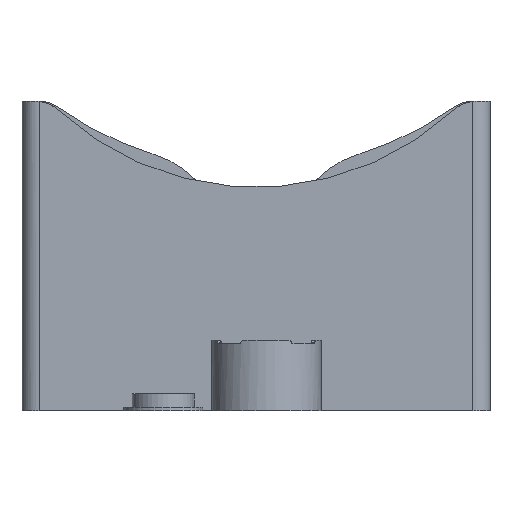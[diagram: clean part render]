
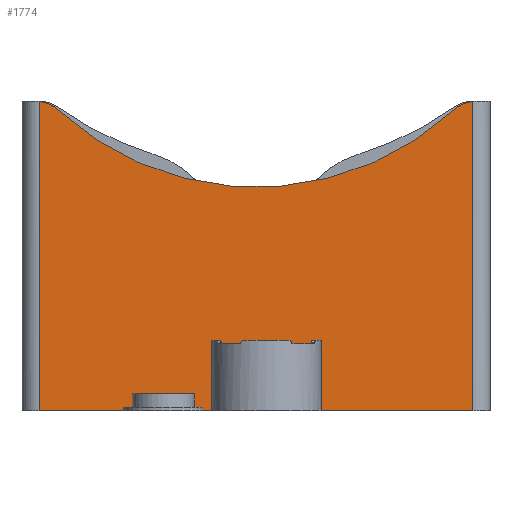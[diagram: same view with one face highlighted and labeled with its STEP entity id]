
A CAD part, left-side view. The second image highlights one B-rep face of the part: STEP entity #1774.
In plain terms, the highlighted planar face has unit normal (-1, 0, 0).
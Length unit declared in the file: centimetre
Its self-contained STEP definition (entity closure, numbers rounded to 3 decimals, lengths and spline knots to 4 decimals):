
#132=CIRCLE($,#1946,1.);
#133=CIRCLE($,#1948,8.5);
#134=CIRCLE($,#1950,1.);
#222=FACE_OUTER_BOUND($,#324,.T.);
#324=EDGE_LOOP($,(#1454,#1455,#1456,#1457,#1458,#1459));
#460=LINE($,#2877,#609);
#475=LINE($,#2959,#624);
#476=LINE($,#2961,#625);
#609=VECTOR($,#2328,8.9925);
#624=VECTOR($,#2389,8.9925);
#625=VECTOR($,#2392,12.6);
#791=VERTEX_POINT($,#2874);
#792=VERTEX_POINT($,#2876);
#810=VERTEX_POINT($,#2935);
#811=VERTEX_POINT($,#2937);
#813=VERTEX_POINT($,#2946);
#814=VERTEX_POINT($,#2953);
#1013=EDGE_CURVE($,#791,#792,#460,.T.);
#1037=EDGE_CURVE($,#810,#811,#132,.T.);
#1041=EDGE_CURVE($,#813,#810,#133,.T.);
#1043=EDGE_CURVE($,#792,#813,#134,.T.);
#1047=EDGE_CURVE($,#811,#814,#475,.T.);
#1048=EDGE_CURVE($,#791,#814,#476,.T.);
#1454=ORIENTED_EDGE($,*,*,#1013,.F.);
#1455=ORIENTED_EDGE($,*,*,#1048,.T.);
#1456=ORIENTED_EDGE($,*,*,#1047,.F.);
#1457=ORIENTED_EDGE($,*,*,#1037,.F.);
#1458=ORIENTED_EDGE($,*,*,#1041,.F.);
#1459=ORIENTED_EDGE($,*,*,#1043,.F.);
#1691=PLANE($,#1954);
#1774=ADVANCED_FACE($,(#222),#1691,.T.);
#1946=AXIS2_PLACEMENT_3D($,#2938,#2369,#2370);
#1948=AXIS2_PLACEMENT_3D($,#2948,#2375,#2376);
#1950=AXIS2_PLACEMENT_3D($,#2951,#2380,#2381);
#1954=AXIS2_PLACEMENT_3D($,#2960,#2390,#2391);
#2328=DIRECTION($,(0.,0.,1.));
#2369=DIRECTION('center_axis',(1.,0.,0.));
#2370=DIRECTION('ref_axis',(0.,0.363,0.932));
#2375=DIRECTION('center_axis',(-1.,0.,0.));
#2376=DIRECTION('ref_axis',(0.,0.,-1.));
#2380=DIRECTION('center_axis',(1.,0.,0.));
#2381=DIRECTION('ref_axis',(0.,-0.363,0.932));
#2389=DIRECTION($,(0.,0.,-1.));
#2390=DIRECTION('center_axis',(-1.,0.,0.));
#2391=DIRECTION('ref_axis',(0.,0.,1.));
#2392=DIRECTION($,(0.,-1.,0.));
#2874=CARTESIAN_POINT('',(-13.6,23.6,0.));
#2876=CARTESIAN_POINT('',(-13.6,23.6,8.9925));
#2877=CARTESIAN_POINT($,(-13.6,23.6,1.8));
#2935=CARTESIAN_POINT('',(-13.6,11.5534,8.7368));
#2937=CARTESIAN_POINT('',(-13.6,11.,8.9925));
#2938=CARTESIAN_POINT('Origin',(-13.6,10.8774,8.));
#2946=CARTESIAN_POINT('',(-13.6,23.0466,8.7368));
#2948=CARTESIAN_POINT('Origin',(-13.6,17.3,15.));
#2951=CARTESIAN_POINT('Origin',(-13.6,23.7226,8.));
#2953=CARTESIAN_POINT('',(-13.6,11.,0.));
#2959=CARTESIAN_POINT($,(-13.6,11.,1.8));
#2960=CARTESIAN_POINT('Origin',(-13.6,17.3,1.8));
#2961=CARTESIAN_POINT($,(-13.6,17.65,0.));
